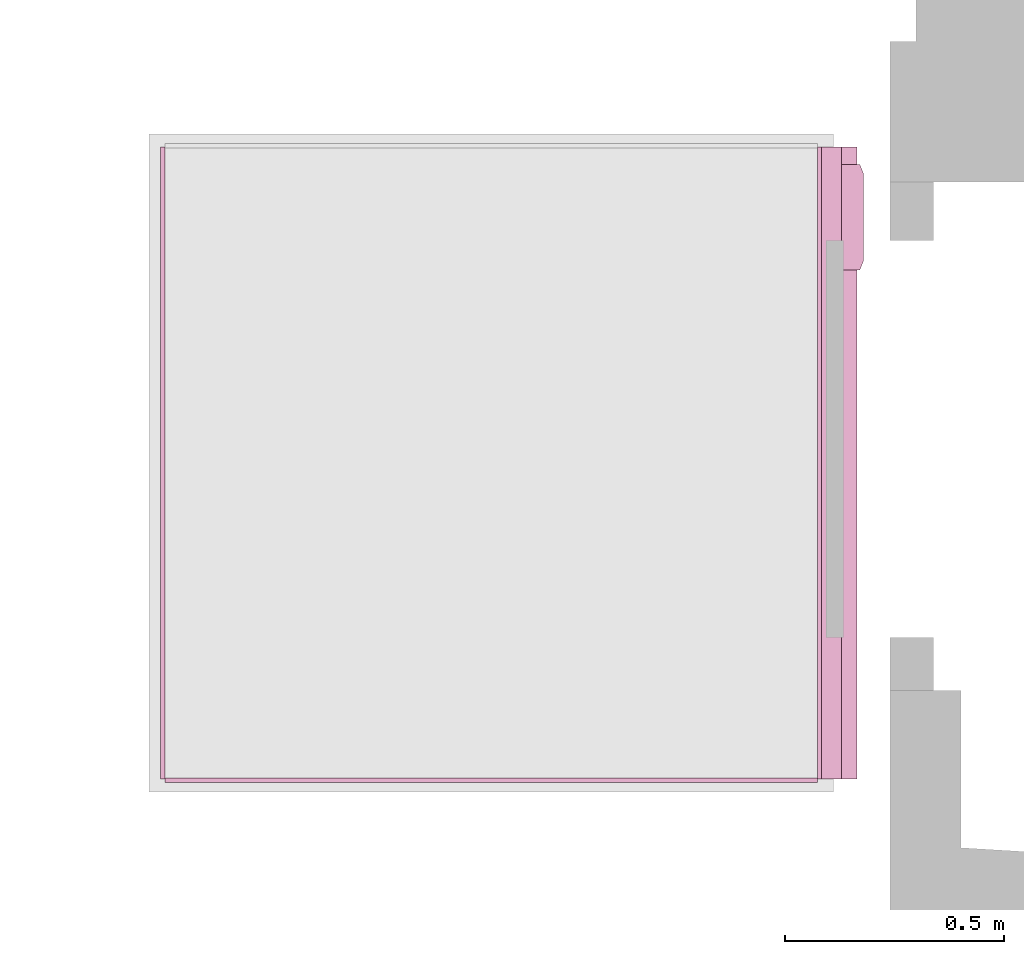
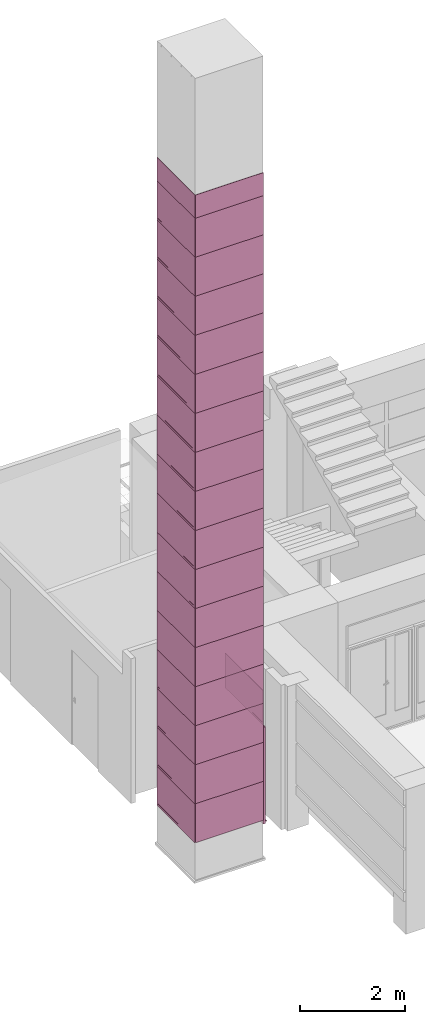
# One storey, part 47 of 49: 36 transport elements.
"""IFC2X3 building model written with IfcOpenShell, lengths in millimetres."""

from ifc_helpers import new_model, entity, si_unit, converted_unit, derived_unit, direction, frame, frame_2d, origin, origin_2d_with_axis, place, context, subcontext, project, spatial, polyline, rectangle, outline, extrude, source, transform, mapped, material, material_list, type_object, type_shapes, element, save


model = new_model("IFC2X3")

# Units and contexts
model_context = context("Model", 3, precision=0.01, world=origin(), true_north=direction((6.12303176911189e-17, 1.0)))
body_context = subcontext(model_context, "Body", "Model", "MODEL_VIEW")
ifc_project = project(units=[si_unit("LENGTHUNIT", "METRE", prefix="MILLI"), si_unit("AREAUNIT", "SQUARE_METRE"), si_unit("VOLUMEUNIT", "CUBIC_METRE"), converted_unit("PLANEANGLEUNIT", "DEGREE", entity("IfcRatioMeasure", 0.0174532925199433), si_unit("PLANEANGLEUNIT", "RADIAN"), dimensions=[0, 0, 0, 0, 0, 0, 0]), si_unit("MASSUNIT", "GRAM", prefix="KILO"), derived_unit("MASSDENSITYUNIT", [(si_unit("MASSUNIT", "GRAM", prefix="KILO"), 1), (si_unit("LENGTHUNIT", "METRE"), -3)]), si_unit("TIMEUNIT", "SECOND"), si_unit("FREQUENCYUNIT", "HERTZ"), si_unit("THERMODYNAMICTEMPERATUREUNIT", "DEGREE_CELSIUS"), derived_unit("THERMALTRANSMITTANCEUNIT", [(si_unit("MASSUNIT", "GRAM", prefix="KILO"), 1), (si_unit("THERMODYNAMICTEMPERATUREUNIT", "KELVIN"), -1), (si_unit("TIMEUNIT", "SECOND"), -3)]), derived_unit("VOLUMETRICFLOWRATEUNIT", [(si_unit("LENGTHUNIT", "METRE"), 3), (si_unit("TIMEUNIT", "SECOND"), -1)]), si_unit("ELECTRICCURRENTUNIT", "AMPERE"), si_unit("ELECTRICVOLTAGEUNIT", "VOLT"), si_unit("POWERUNIT", "WATT"), si_unit("FORCEUNIT", "NEWTON", prefix="KILO"), si_unit("ILLUMINANCEUNIT", "LUX"), si_unit("LUMINOUSFLUXUNIT", "LUMEN"), si_unit("LUMINOUSINTENSITYUNIT", "CANDELA"), derived_unit("USERDEFINED", [(si_unit("MASSUNIT", "GRAM", prefix="KILO"), -1), (si_unit("LENGTHUNIT", "METRE"), -2), (si_unit("TIMEUNIT", "SECOND"), 3), (si_unit("LUMINOUSFLUXUNIT", "LUMEN"), 1)]), derived_unit("LINEARVELOCITYUNIT", [(si_unit("LENGTHUNIT", "METRE"), 1), (si_unit("TIMEUNIT", "SECOND"), -1)]), si_unit("PRESSUREUNIT", "PASCAL"), derived_unit("USERDEFINED", [(si_unit("LENGTHUNIT", "METRE"), -2), (si_unit("MASSUNIT", "GRAM", prefix="KILO"), 1), (si_unit("TIMEUNIT", "SECOND"), -2)])], contexts=[model_context])

# Site, building, storey, space
site_placement = place(None, frame((-151.875543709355, 2715.0, 0.0)))
site = spatial("IfcSite", under=ifc_project, at=site_placement, Name="Surface", CompositionType="ELEMENT")
building_placement = place(site_placement, origin())
building = spatial("IfcBuilding", under=site, at=building_placement, CompositionType="ELEMENT")
storey_placement = place(building_placement, origin())
storey = spatial("IfcBuildingStorey", under=building, at=storey_placement, Name="1 korrus", CompositionType="ELEMENT", Elevation=3.0969999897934e-10)
space_placement = place(storey_placement, origin())
space = spatial("IfcSpace", under=storey, at=space_placement, Name="103", CompositionType="ELEMENT", InteriorOrExteriorSpace="INTERNAL")

# Transport elements
ifc_material_1 = material(Name="Kalea_glass")
ifc_material_2 = material(Name="Kalea_glass_black")
ifc_material_3 = material(Name="Kalea_RAL_9016")
ifc_material_list_1 = material_list([ifc_material_1, ifc_material_2, ifc_material_3])
ifc_material_list_2 = material_list([ifc_material_1, ifc_material_2, ifc_material_3])
transport_element_type_1 = type_object("IfcTransportElementType", Name="1100 x 1467 - 805", PredefinedType="NOTDEFINED", material=ifc_material_list_2)
shared_shape_1 = source(origin(), body_context, "Body", "SweptSolid", [
    extrude(rectangle(XDim=4.0, YDim=1020.0, at=origin_2d_with_axis()), frame((880.0, 15.0, 50.0), z_axis=(0.0, 0.0, 1.0), x_axis=(0.0, 1.0, 0.0)), (0.0, 0.0, 1.0), 705.0),
    extrude(rectangle(XDim=4.0, YDim=320.0, at=frame_2d((-2.1094237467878e-15, -1.4210854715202e-14), x_axis=(1.0, 0.0))), frame((210.0, 15.0, 50.0), z_axis=(0.0, 0.0, 1.0), x_axis=(0.0, 1.0, 0.0)), (0.0, 0.0, 1.0), 705.0),
    extrude(outline(polyline([(-720.0, -402.500000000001), (720.0, -402.500000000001), (720.0, 402.500000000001), (-720.0, 402.500000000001), (-720.0, -402.500000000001)]), holes=[polyline([(-670.0, -352.499999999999), (-670.0, 352.500000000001), (670.0, 352.500000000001), (670.0, -352.499999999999), (-670.0, -352.499999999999)])]), frame((720.0, 10.0, 402.500000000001), z_axis=(0.0, 1.0, 0.0), x_axis=(1.0, 0.0, 0.0)), (0.0, 0.0, 1.0), 9.99999999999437),
])
type_shapes(transport_element_type_1, [shared_shape_1])
transport_element_1_placement = place(space_placement, frame((-716.883383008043, 6010.0, 2240.0), z_axis=(0.0, 0.0, 1.0), x_axis=(0.0, -1.0, 0.0)))
element("IfcTransportElement", 1, at=transport_element_1_placement, inside=space, type_object=transport_element_type_1, material=ifc_material_list_1, Name="A-side_Glass Panel:1100 x 1467 - 805", ObjectType="1100 x 1467 - 805", CapacityByNumber=0.0, CapacityByWeight=0.0, OperationType="NOTDEFINED", context=body_context, shape_type="MappedRepresentation", body=[
    mapped(shared_shape_1, transform((0.0, 0.0, 0.0), scale=1.0)),
])
ifc_material_4 = material(Name="Kalea_RAL_9016_Traffic White")
ifc_material_list_3 = material_list([ifc_material_4, ifc_material_1])
ifc_material_list_4 = material_list([ifc_material_4, ifc_material_1])
transport_element_type_2 = type_object("IfcTransportElementType", Name="1100x1467 - Standard Height (904 mm)", PredefinedType="NOTDEFINED", material=ifc_material_list_4)
shared_shape_2 = source(origin(), body_context, "Body", "SweptSolid", [
    extrude(outline(polyline([(-452.0, -743.5), (452.0, -743.5), (452.0, 743.5), (-452.0, 743.5), (-452.0, -743.5)]), holes=[polyline([(-402.0, 693.499999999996), (402.0, 693.5), (402.0, -693.50000000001), (-402.0, -693.50000000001), (-402.0, 693.499999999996)])]), frame((743.5, -10.0, 452.0), z_axis=(0.0, 1.0, 0.0), x_axis=(0.0, 0.0, -1.0)), (0.0, 0.0, 1.0), 9.99999999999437),
    extrude(rectangle(XDim=9.99999999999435, YDim=1387.00000000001, at=origin_2d_with_axis()), frame((743.500000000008, -5.0, 50.0), z_axis=(0.0, 0.0, 1.0), x_axis=(0.0, 1.0, 0.0)), (0.0, 0.0, 1.0), 803.999999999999),
])
type_shapes(transport_element_type_2, [shared_shape_2])
transport_element_2_placement = place(storey_placement, frame((-2193.88338300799, 4572.02816123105, 8181.0)))
element("IfcTransportElement", 2, at=transport_element_2_placement, inside=storey, type_object=transport_element_type_2, material=ifc_material_list_3, Name="B-side_Glass Panel:1100x1467 - Standard Height (904 mm)", ObjectType="1100x1467 - Standard Height (904 mm)", CapacityByNumber=0.0, CapacityByWeight=0.0, OperationType="NOTDEFINED", context=body_context, shape_type="MappedRepresentation", body=[
    mapped(shared_shape_2, transform((0.0, 0.0, 0.0), scale=1.0)),
])
ifc_material_list_5 = material_list([ifc_material_4, ifc_material_1])
transport_element_3_placement = place(storey_placement, frame((-2193.88338300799, 4572.02816123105, 9085.0)))
element("IfcTransportElement", 3, at=transport_element_3_placement, inside=storey, type_object=transport_element_type_2, material=ifc_material_list_5, Name="B-side_Glass Panel:1100x1467 - Standard Height (904 mm)", ObjectType="1100x1467 - Standard Height (904 mm)", CapacityByNumber=0.0, CapacityByWeight=0.0, OperationType="NOTDEFINED", context=body_context, shape_type="MappedRepresentation", body=[
    mapped(shared_shape_2, transform((0.0, 0.0, 0.0), scale=1.0)),
])
ifc_material_list_6 = material_list([ifc_material_4, ifc_material_1])
transport_element_4_placement = place(storey_placement, frame((-2193.88338300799, 4572.02816123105, 9989.0)))
element("IfcTransportElement", 4, at=transport_element_4_placement, inside=storey, type_object=transport_element_type_2, material=ifc_material_list_6, Name="B-side_Glass Panel:1100x1467 - Standard Height (904 mm)", ObjectType="1100x1467 - Standard Height (904 mm)", CapacityByNumber=0.0, CapacityByWeight=0.0, OperationType="NOTDEFINED", context=body_context, shape_type="MappedRepresentation", body=[
    mapped(shared_shape_2, transform((0.0, 0.0, 0.0), scale=1.0)),
])
ifc_material_list_7 = material_list([ifc_material_4, ifc_material_1])
transport_element_5_placement = place(storey_placement, frame((-2193.88338300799, 4572.02816123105, 10893.0)))
element("IfcTransportElement", 5, at=transport_element_5_placement, inside=storey, type_object=transport_element_type_2, material=ifc_material_list_7, Name="B-side_Glass Panel:1100x1467 - Standard Height (904 mm)", ObjectType="1100x1467 - Standard Height (904 mm)", CapacityByNumber=0.0, CapacityByWeight=0.0, OperationType="NOTDEFINED", context=body_context, shape_type="MappedRepresentation", body=[
    mapped(shared_shape_2, transform((0.0, 0.0, 0.0), scale=1.0)),
])
ifc_material_list_8 = material_list([ifc_material_4, ifc_material_1])
transport_element_6_placement = place(storey_placement, frame((-2193.88338300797, 4572.02816123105, 11797.0)))
element("IfcTransportElement", 6, at=transport_element_6_placement, inside=storey, type_object=transport_element_type_2, material=ifc_material_list_8, Name="B-side_Glass Panel:1100x1467 - Standard Height (904 mm)", ObjectType="1100x1467 - Standard Height (904 mm)", CapacityByNumber=0.0, CapacityByWeight=0.0, OperationType="NOTDEFINED", context=body_context, shape_type="MappedRepresentation", body=[
    mapped(shared_shape_2, transform((0.0, 0.0, 0.0), scale=1.0)),
])
ifc_material_list_9 = material_list([ifc_material_4, ifc_material_1])
transport_element_7_placement = place(storey_placement, frame((-2193.88338300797, 4572.02816123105, 12701.0)))
element("IfcTransportElement", 7, at=transport_element_7_placement, inside=storey, type_object=transport_element_type_2, material=ifc_material_list_9, Name="B-side_Glass Panel:1100x1467 - Standard Height (904 mm)", ObjectType="1100x1467 - Standard Height (904 mm)", CapacityByNumber=0.0, CapacityByWeight=0.0, OperationType="NOTDEFINED", context=body_context, shape_type="MappedRepresentation", body=[
    mapped(shared_shape_2, transform((0.0, 0.0, 0.0), scale=1.0)),
])
ifc_material_list_10 = material_list([ifc_material_4, ifc_material_1])
transport_element_8_placement = place(storey_placement, frame((-2193.88338300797, 4572.02816123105, 13605.0)))
element("IfcTransportElement", 8, at=transport_element_8_placement, inside=storey, type_object=transport_element_type_2, material=ifc_material_list_10, Name="B-side_Glass Panel:1100x1467 - Standard Height (904 mm)", ObjectType="1100x1467 - Standard Height (904 mm)", CapacityByNumber=0.0, CapacityByWeight=0.0, OperationType="NOTDEFINED", context=body_context, shape_type="MappedRepresentation", body=[
    mapped(shared_shape_2, transform((0.0, 0.0, 0.0), scale=1.0)),
])
ifc_material_list_11 = material_list([ifc_material_4, ifc_material_1])
transport_element_9_placement = place(storey_placement, frame((-2193.88338300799, 4572.02816123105, 45.0)))
element("IfcTransportElement", 9, at=transport_element_9_placement, inside=storey, type_object=transport_element_type_2, material=ifc_material_list_11, Name="B-side_Glass Panel:1100x1467 - Standard Height (904 mm)", ObjectType="1100x1467 - Standard Height (904 mm)", CapacityByNumber=0.0, CapacityByWeight=0.0, OperationType="NOTDEFINED", context=body_context, shape_type="MappedRepresentation", body=[
    mapped(shared_shape_2, transform((0.0, 0.0, 0.0), scale=1.0)),
])
ifc_material_list_12 = material_list([ifc_material_4, ifc_material_1])
transport_element_10_placement = place(storey_placement, frame((-2193.88338300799, 4572.02816123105, 949.0)))
element("IfcTransportElement", 10, at=transport_element_10_placement, inside=storey, type_object=transport_element_type_2, material=ifc_material_list_12, Name="B-side_Glass Panel:1100x1467 - Standard Height (904 mm)", ObjectType="1100x1467 - Standard Height (904 mm)", CapacityByNumber=0.0, CapacityByWeight=0.0, OperationType="NOTDEFINED", context=body_context, shape_type="MappedRepresentation", body=[
    mapped(shared_shape_2, transform((0.0, 0.0, 0.0), scale=1.0)),
])
ifc_material_list_13 = material_list([ifc_material_4, ifc_material_1])
transport_element_11_placement = place(storey_placement, frame((-2193.88338300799, 4572.02816123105, 1853.0)))
element("IfcTransportElement", 11, at=transport_element_11_placement, inside=storey, type_object=transport_element_type_2, material=ifc_material_list_13, Name="B-side_Glass Panel:1100x1467 - Standard Height (904 mm)", ObjectType="1100x1467 - Standard Height (904 mm)", CapacityByNumber=0.0, CapacityByWeight=0.0, OperationType="NOTDEFINED", context=body_context, shape_type="MappedRepresentation", body=[
    mapped(shared_shape_2, transform((0.0, 0.0, 0.0), scale=1.0)),
])
ifc_material_list_14 = material_list([ifc_material_4, ifc_material_1])
transport_element_12_placement = place(storey_placement, frame((-2193.88338300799, 4572.02816123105, 2757.0)))
element("IfcTransportElement", 12, at=transport_element_12_placement, inside=storey, type_object=transport_element_type_2, material=ifc_material_list_14, Name="B-side_Glass Panel:1100x1467 - Standard Height (904 mm)", ObjectType="1100x1467 - Standard Height (904 mm)", CapacityByNumber=0.0, CapacityByWeight=0.0, OperationType="NOTDEFINED", context=body_context, shape_type="MappedRepresentation", body=[
    mapped(shared_shape_2, transform((0.0, 0.0, 0.0), scale=1.0)),
])
ifc_material_list_15 = material_list([ifc_material_4, ifc_material_1])
transport_element_13_placement = place(storey_placement, frame((-2193.88338300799, 4572.02816123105, 3661.0)))
element("IfcTransportElement", 13, at=transport_element_13_placement, inside=storey, type_object=transport_element_type_2, material=ifc_material_list_15, Name="B-side_Glass Panel:1100x1467 - Standard Height (904 mm)", ObjectType="1100x1467 - Standard Height (904 mm)", CapacityByNumber=0.0, CapacityByWeight=0.0, OperationType="NOTDEFINED", context=body_context, shape_type="MappedRepresentation", body=[
    mapped(shared_shape_2, transform((0.0, 0.0, 0.0), scale=1.0)),
])
ifc_material_list_16 = material_list([ifc_material_4, ifc_material_1])
transport_element_14_placement = place(storey_placement, frame((-2193.88338300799, 4572.02816123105, 4565.0)))
element("IfcTransportElement", 14, at=transport_element_14_placement, inside=storey, type_object=transport_element_type_2, material=ifc_material_list_16, Name="B-side_Glass Panel:1100x1467 - Standard Height (904 mm)", ObjectType="1100x1467 - Standard Height (904 mm)", CapacityByNumber=0.0, CapacityByWeight=0.0, OperationType="NOTDEFINED", context=body_context, shape_type="MappedRepresentation", body=[
    mapped(shared_shape_2, transform((0.0, 0.0, 0.0), scale=1.0)),
])
ifc_material_list_17 = material_list([ifc_material_4, ifc_material_1])
transport_element_15_placement = place(storey_placement, frame((-2193.88338300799, 4572.02816123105, 5469.0)))
element("IfcTransportElement", 15, at=transport_element_15_placement, inside=storey, type_object=transport_element_type_2, material=ifc_material_list_17, Name="B-side_Glass Panel:1100x1467 - Standard Height (904 mm)", ObjectType="1100x1467 - Standard Height (904 mm)", CapacityByNumber=0.0, CapacityByWeight=0.0, OperationType="NOTDEFINED", context=body_context, shape_type="MappedRepresentation", body=[
    mapped(shared_shape_2, transform((0.0, 0.0, 0.0), scale=1.0)),
])
ifc_material_list_18 = material_list([ifc_material_4, ifc_material_1])
transport_element_16_placement = place(storey_placement, frame((-2193.88338300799, 4572.02816123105, 6373.0)))
element("IfcTransportElement", 16, at=transport_element_16_placement, inside=storey, type_object=transport_element_type_2, material=ifc_material_list_18, Name="B-side_Glass Panel:1100x1467 - Standard Height (904 mm)", ObjectType="1100x1467 - Standard Height (904 mm)", CapacityByNumber=0.0, CapacityByWeight=0.0, OperationType="NOTDEFINED", context=body_context, shape_type="MappedRepresentation", body=[
    mapped(shared_shape_2, transform((0.0, 0.0, 0.0), scale=1.0)),
])
ifc_material_list_19 = material_list([ifc_material_4, ifc_material_1])
transport_element_17_placement = place(storey_placement, frame((-2193.88338300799, 4572.02816123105, 7277.0)))
element("IfcTransportElement", 17, at=transport_element_17_placement, inside=storey, type_object=transport_element_type_2, material=ifc_material_list_19, Name="B-side_Glass Panel:1100x1467 - Standard Height (904 mm)", ObjectType="1100x1467 - Standard Height (904 mm)", CapacityByNumber=0.0, CapacityByWeight=0.0, OperationType="NOTDEFINED", context=body_context, shape_type="MappedRepresentation", body=[
    mapped(shared_shape_2, transform((0.0, 0.0, 0.0), scale=1.0)),
])
ifc_material_list_20 = material_list([ifc_material_1, ifc_material_2, ifc_material_3])
ifc_material_list_21 = material_list([ifc_material_1, ifc_material_2, ifc_material_3])
transport_element_type_3 = type_object("IfcTransportElementType", Name="1100 x 1467 - Standard Height (904 mm)", PredefinedType="NOTDEFINED", material=ifc_material_list_21)
shared_shape_3 = source(origin(), body_context, "Body", "SweptSolid", [
    extrude(rectangle(XDim=4.0, YDim=1020.00000000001, at=origin_2d_with_axis()), frame((880.0, 15.0, 50.0), z_axis=(0.0, 0.0, 1.0), x_axis=(0.0, 1.0, 0.0)), (0.0, 0.0, 1.0), 804.000000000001),
    extrude(rectangle(XDim=4.0, YDim=320.0, at=frame_2d((-2.1094237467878e-15, -2.8421709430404e-14), x_axis=(1.0, 0.0))), frame((210.0, 15.0, 50.0), z_axis=(0.0, 0.0, 1.0), x_axis=(0.0, 1.0, 0.0)), (0.0, 0.0, 1.0), 804.000000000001),
    extrude(outline(polyline([(-720.0, -452.0), (720.0, -452.0), (720.0, 452.0), (-720.0, 452.0), (-720.0, -452.0)]), holes=[polyline([(-670.0, -402.0), (-670.0, 402.0), (670.0, 402.0), (670.0, -402.0), (-670.0, -402.0)])]), frame((720.0, 10.0, 452.0), z_axis=(0.0, 1.0, 0.0), x_axis=(1.0, 0.0, 0.0)), (0.0, 0.0, 1.0), 9.99999999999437),
])
type_shapes(transport_element_type_3, [shared_shape_3])
transport_element_18_placement = place(storey_placement, frame((-2213.88338300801, 6010.0, 8181.0), z_axis=(0.0, 0.0, 1.0), x_axis=(0.0, -1.0, 0.0)))
element("IfcTransportElement", 18, at=transport_element_18_placement, inside=storey, type_object=transport_element_type_3, material=ifc_material_list_20, Name="C-side_Glass Panel:1100 x 1467 - Standard Height (904 mm)", ObjectType="1100 x 1467 - Standard Height (904 mm)", CapacityByNumber=0.0, CapacityByWeight=0.0, OperationType="NOTDEFINED", context=body_context, shape_type="MappedRepresentation", body=[
    mapped(shared_shape_3, transform((0.0, 0.0, 0.0), scale=1.0)),
])
ifc_material_list_22 = material_list([ifc_material_1, ifc_material_2, ifc_material_3])
transport_element_19_placement = place(storey_placement, frame((-2213.88338300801, 6010.0, 9085.0), z_axis=(0.0, 0.0, 1.0), x_axis=(0.0, -1.0, 0.0)))
element("IfcTransportElement", 19, at=transport_element_19_placement, inside=storey, type_object=transport_element_type_3, material=ifc_material_list_22, Name="C-side_Glass Panel:1100 x 1467 - Standard Height (904 mm)", ObjectType="1100 x 1467 - Standard Height (904 mm)", CapacityByNumber=0.0, CapacityByWeight=0.0, OperationType="NOTDEFINED", context=body_context, shape_type="MappedRepresentation", body=[
    mapped(shared_shape_3, transform((0.0, 0.0, 0.0), scale=1.0)),
])
ifc_material_list_23 = material_list([ifc_material_1, ifc_material_2, ifc_material_3])
transport_element_20_placement = place(storey_placement, frame((-2213.88338300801, 6010.0, 9989.0), z_axis=(0.0, 0.0, 1.0), x_axis=(0.0, -1.0, 0.0)))
element("IfcTransportElement", 20, at=transport_element_20_placement, inside=storey, type_object=transport_element_type_3, material=ifc_material_list_23, Name="C-side_Glass Panel:1100 x 1467 - Standard Height (904 mm)", ObjectType="1100 x 1467 - Standard Height (904 mm)", CapacityByNumber=0.0, CapacityByWeight=0.0, OperationType="NOTDEFINED", context=body_context, shape_type="MappedRepresentation", body=[
    mapped(shared_shape_3, transform((0.0, 0.0, 0.0), scale=1.0)),
])
ifc_material_list_24 = material_list([ifc_material_1, ifc_material_2, ifc_material_3])
transport_element_21_placement = place(storey_placement, frame((-2213.88338300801, 6010.0, 10893.0), z_axis=(0.0, 0.0, 1.0), x_axis=(0.0, -1.0, 0.0)))
element("IfcTransportElement", 21, at=transport_element_21_placement, inside=storey, type_object=transport_element_type_3, material=ifc_material_list_24, Name="C-side_Glass Panel:1100 x 1467 - Standard Height (904 mm)", ObjectType="1100 x 1467 - Standard Height (904 mm)", CapacityByNumber=0.0, CapacityByWeight=0.0, OperationType="NOTDEFINED", context=body_context, shape_type="MappedRepresentation", body=[
    mapped(shared_shape_3, transform((0.0, 0.0, 0.0), scale=1.0)),
])
ifc_material_list_25 = material_list([ifc_material_1, ifc_material_2, ifc_material_3])
transport_element_22_placement = place(storey_placement, frame((-2213.88338300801, 6010.0, 11797.0), z_axis=(0.0, 0.0, 1.0), x_axis=(0.0, -1.0, 0.0)))
element("IfcTransportElement", 22, at=transport_element_22_placement, inside=storey, type_object=transport_element_type_3, material=ifc_material_list_25, Name="C-side_Glass Panel:1100 x 1467 - Standard Height (904 mm)", ObjectType="1100 x 1467 - Standard Height (904 mm)", CapacityByNumber=0.0, CapacityByWeight=0.0, OperationType="NOTDEFINED", context=body_context, shape_type="MappedRepresentation", body=[
    mapped(shared_shape_3, transform((0.0, 0.0, 0.0), scale=1.0)),
])
ifc_material_list_26 = material_list([ifc_material_1, ifc_material_2, ifc_material_3])
transport_element_23_placement = place(storey_placement, frame((-2213.88338300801, 6010.0, 12701.0), z_axis=(0.0, 0.0, 1.0), x_axis=(0.0, -1.0, 0.0)))
element("IfcTransportElement", 23, at=transport_element_23_placement, inside=storey, type_object=transport_element_type_3, material=ifc_material_list_26, Name="C-side_Glass Panel:1100 x 1467 - Standard Height (904 mm)", ObjectType="1100 x 1467 - Standard Height (904 mm)", CapacityByNumber=0.0, CapacityByWeight=0.0, OperationType="NOTDEFINED", context=body_context, shape_type="MappedRepresentation", body=[
    mapped(shared_shape_3, transform((0.0, 0.0, 0.0), scale=1.0)),
])
ifc_material_list_27 = material_list([ifc_material_1, ifc_material_2, ifc_material_3])
transport_element_24_placement = place(storey_placement, frame((-2213.88338300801, 6010.0, 13605.0), z_axis=(0.0, 0.0, 1.0), x_axis=(0.0, -1.0, 0.0)))
element("IfcTransportElement", 24, at=transport_element_24_placement, inside=storey, type_object=transport_element_type_3, material=ifc_material_list_27, Name="C-side_Glass Panel:1100 x 1467 - Standard Height (904 mm)", ObjectType="1100 x 1467 - Standard Height (904 mm)", CapacityByNumber=0.0, CapacityByWeight=0.0, OperationType="NOTDEFINED", context=body_context, shape_type="MappedRepresentation", body=[
    mapped(shared_shape_3, transform((0.0, 0.0, 0.0), scale=1.0)),
])
ifc_material_list_28 = material_list([ifc_material_1, ifc_material_2, ifc_material_3])
transport_element_25_placement = place(storey_placement, frame((-2213.88338300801, 6010.0, 45.0), z_axis=(0.0, 0.0, 1.0), x_axis=(0.0, -1.0, 0.0)))
element("IfcTransportElement", 25, at=transport_element_25_placement, inside=storey, type_object=transport_element_type_3, material=ifc_material_list_28, Name="C-side_Glass Panel:1100 x 1467 - Standard Height (904 mm)", ObjectType="1100 x 1467 - Standard Height (904 mm)", CapacityByNumber=0.0, CapacityByWeight=0.0, OperationType="NOTDEFINED", context=body_context, shape_type="MappedRepresentation", body=[
    mapped(shared_shape_3, transform((0.0, 0.0, 0.0), scale=1.0)),
])
ifc_material_list_29 = material_list([ifc_material_1, ifc_material_2, ifc_material_3])
transport_element_26_placement = place(storey_placement, frame((-2213.88338300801, 6010.0, 949.0), z_axis=(0.0, 0.0, 1.0), x_axis=(0.0, -1.0, 0.0)))
element("IfcTransportElement", 26, at=transport_element_26_placement, inside=storey, type_object=transport_element_type_3, material=ifc_material_list_29, Name="C-side_Glass Panel:1100 x 1467 - Standard Height (904 mm)", ObjectType="1100 x 1467 - Standard Height (904 mm)", CapacityByNumber=0.0, CapacityByWeight=0.0, OperationType="NOTDEFINED", context=body_context, shape_type="MappedRepresentation", body=[
    mapped(shared_shape_3, transform((0.0, 0.0, 0.0), scale=1.0)),
])
ifc_material_list_30 = material_list([ifc_material_1, ifc_material_2, ifc_material_3])
transport_element_27_placement = place(storey_placement, frame((-2213.88338300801, 6010.0, 1853.0), z_axis=(0.0, 0.0, 1.0), x_axis=(0.0, -1.0, 0.0)))
element("IfcTransportElement", 27, at=transport_element_27_placement, inside=storey, type_object=transport_element_type_3, material=ifc_material_list_30, Name="C-side_Glass Panel:1100 x 1467 - Standard Height (904 mm)", ObjectType="1100 x 1467 - Standard Height (904 mm)", CapacityByNumber=0.0, CapacityByWeight=0.0, OperationType="NOTDEFINED", context=body_context, shape_type="MappedRepresentation", body=[
    mapped(shared_shape_3, transform((0.0, 0.0, 0.0), scale=1.0)),
])
ifc_material_list_31 = material_list([ifc_material_1, ifc_material_2, ifc_material_3])
transport_element_28_placement = place(storey_placement, frame((-2213.88338300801, 6010.0, 2757.0), z_axis=(0.0, 0.0, 1.0), x_axis=(0.0, -1.0, 0.0)))
element("IfcTransportElement", 28, at=transport_element_28_placement, inside=storey, type_object=transport_element_type_3, material=ifc_material_list_31, Name="C-side_Glass Panel:1100 x 1467 - Standard Height (904 mm)", ObjectType="1100 x 1467 - Standard Height (904 mm)", CapacityByNumber=0.0, CapacityByWeight=0.0, OperationType="NOTDEFINED", context=body_context, shape_type="MappedRepresentation", body=[
    mapped(shared_shape_3, transform((0.0, 0.0, 0.0), scale=1.0)),
])
ifc_material_list_32 = material_list([ifc_material_1, ifc_material_2, ifc_material_3])
transport_element_29_placement = place(storey_placement, frame((-2213.88338300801, 6010.0, 3661.0), z_axis=(0.0, 0.0, 1.0), x_axis=(0.0, -1.0, 0.0)))
element("IfcTransportElement", 29, at=transport_element_29_placement, inside=storey, type_object=transport_element_type_3, material=ifc_material_list_32, Name="C-side_Glass Panel:1100 x 1467 - Standard Height (904 mm)", ObjectType="1100 x 1467 - Standard Height (904 mm)", CapacityByNumber=0.0, CapacityByWeight=0.0, OperationType="NOTDEFINED", context=body_context, shape_type="MappedRepresentation", body=[
    mapped(shared_shape_3, transform((0.0, 0.0, 0.0), scale=1.0)),
])
ifc_material_list_33 = material_list([ifc_material_1, ifc_material_2, ifc_material_3])
transport_element_30_placement = place(storey_placement, frame((-2213.88338300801, 6010.0, 4565.0), z_axis=(0.0, 0.0, 1.0), x_axis=(0.0, -1.0, 0.0)))
element("IfcTransportElement", 30, at=transport_element_30_placement, inside=storey, type_object=transport_element_type_3, material=ifc_material_list_33, Name="C-side_Glass Panel:1100 x 1467 - Standard Height (904 mm)", ObjectType="1100 x 1467 - Standard Height (904 mm)", CapacityByNumber=0.0, CapacityByWeight=0.0, OperationType="NOTDEFINED", context=body_context, shape_type="MappedRepresentation", body=[
    mapped(shared_shape_3, transform((0.0, 0.0, 0.0), scale=1.0)),
])
ifc_material_list_34 = material_list([ifc_material_1, ifc_material_2, ifc_material_3])
transport_element_31_placement = place(storey_placement, frame((-2213.88338300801, 6010.0, 5469.0), z_axis=(0.0, 0.0, 1.0), x_axis=(0.0, -1.0, 0.0)))
element("IfcTransportElement", 31, at=transport_element_31_placement, inside=storey, type_object=transport_element_type_3, material=ifc_material_list_34, Name="C-side_Glass Panel:1100 x 1467 - Standard Height (904 mm)", ObjectType="1100 x 1467 - Standard Height (904 mm)", CapacityByNumber=0.0, CapacityByWeight=0.0, OperationType="NOTDEFINED", context=body_context, shape_type="MappedRepresentation", body=[
    mapped(shared_shape_3, transform((0.0, 0.0, 0.0), scale=1.0)),
])
ifc_material_list_35 = material_list([ifc_material_1, ifc_material_2, ifc_material_3])
transport_element_32_placement = place(storey_placement, frame((-2213.88338300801, 6010.0, 6373.0), z_axis=(0.0, 0.0, 1.0), x_axis=(0.0, -1.0, 0.0)))
element("IfcTransportElement", 32, at=transport_element_32_placement, inside=storey, type_object=transport_element_type_3, material=ifc_material_list_35, Name="C-side_Glass Panel:1100 x 1467 - Standard Height (904 mm)", ObjectType="1100 x 1467 - Standard Height (904 mm)", CapacityByNumber=0.0, CapacityByWeight=0.0, OperationType="NOTDEFINED", context=body_context, shape_type="MappedRepresentation", body=[
    mapped(shared_shape_3, transform((0.0, 0.0, 0.0), scale=1.0)),
])
ifc_material_list_36 = material_list([ifc_material_1, ifc_material_2, ifc_material_3])
transport_element_33_placement = place(storey_placement, frame((-2213.88338300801, 6010.0, 7277.0), z_axis=(0.0, 0.0, 1.0), x_axis=(0.0, -1.0, 0.0)))
element("IfcTransportElement", 33, at=transport_element_33_placement, inside=storey, type_object=transport_element_type_3, material=ifc_material_list_36, Name="C-side_Glass Panel:1100 x 1467 - Standard Height (904 mm)", ObjectType="1100 x 1467 - Standard Height (904 mm)", CapacityByNumber=0.0, CapacityByWeight=0.0, OperationType="NOTDEFINED", context=body_context, shape_type="MappedRepresentation", body=[
    mapped(shared_shape_3, transform((0.0, 0.0, 0.0), scale=1.0)),
])
ifc_material_list_37 = material_list([ifc_material_1, ifc_material_2, ifc_material_3])
ifc_material_list_38 = material_list([ifc_material_1, ifc_material_2, ifc_material_3])
transport_element_type_4 = type_object("IfcTransportElementType", Name="1100 x 1467 - 536", PredefinedType="NOTDEFINED", material=ifc_material_list_38)
shared_shape_4 = source(origin(), body_context, "Body", "SweptSolid", [
    extrude(rectangle(XDim=4.0, YDim=1020.00000000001, at=origin_2d_with_axis()), frame((880.0, 15.0, 50.0), z_axis=(0.0, 0.0, 1.0), x_axis=(0.0, 1.0, 0.0)), (0.0, 0.0, 1.0), 436.0),
    extrude(rectangle(XDim=4.0, YDim=320.0, at=frame_2d((-2.1094237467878e-15, -1.4210854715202e-14), x_axis=(1.0, 0.0))), frame((210.0, 15.0, 50.0), z_axis=(0.0, 0.0, 1.0), x_axis=(0.0, 1.0, 0.0)), (0.0, 0.0, 1.0), 436.0),
    extrude(outline(polyline([(-720.0, -268.0), (720.0, -268.0), (720.0, 268.0), (-720.0, 268.0), (-720.0, -268.0)]), holes=[polyline([(-670.0, -218.0), (-670.0, 218.0), (670.0, 218.0), (670.0, -218.0), (-670.0, -218.0)])]), frame((720.0, 10.0, 268.0), z_axis=(0.0, 1.0, 0.0), x_axis=(1.0, 0.0, 0.0)), (0.0, 0.0, 1.0), 9.99999999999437),
])
type_shapes(transport_element_type_4, [shared_shape_4])
transport_element_34_placement = place(storey_placement, frame((-2213.88338300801, 6010.0, 14509.0), z_axis=(0.0, 0.0, 1.0), x_axis=(0.0, -1.0, 0.0)))
element("IfcTransportElement", 34, at=transport_element_34_placement, inside=storey, type_object=transport_element_type_4, material=ifc_material_list_37, Name="C-side_Glass Panel:1100 x 1467 - 536", ObjectType="1100 x 1467 - 536", CapacityByNumber=0.0, CapacityByWeight=0.0, OperationType="NOTDEFINED", context=body_context, shape_type="MappedRepresentation", body=[
    mapped(shared_shape_4, transform((0.0, 0.0, 0.0), scale=1.0)),
])
ifc_material_list_39 = material_list([ifc_material_4, ifc_material_1])
ifc_material_list_40 = material_list([ifc_material_4, ifc_material_1])
transport_element_type_5 = type_object("IfcTransportElementType", Name="1100x1467 - 536", PredefinedType="NOTDEFINED", material=ifc_material_list_40)
shared_shape_5 = source(origin(), body_context, "Body", "SweptSolid", [
    extrude(outline(polyline([(-268.0, -743.5), (268.0, -743.5), (268.0, 743.5), (-268.0, 743.5), (-268.0, -743.5)]), holes=[polyline([(-218.0, 693.499999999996), (218.0, 693.5), (218.0, -693.50000000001), (-218.0, -693.50000000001), (-218.0, 693.499999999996)])]), frame((743.5, -10.0, 268.0), z_axis=(0.0, 1.0, 0.0), x_axis=(0.0, 0.0, -1.0)), (0.0, 0.0, 1.0), 9.99999999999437),
    extrude(rectangle(XDim=9.99999999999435, YDim=1387.00000000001, at=origin_2d_with_axis()), frame((743.500000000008, -5.0, 50.0), z_axis=(0.0, 0.0, 1.0), x_axis=(0.0, 1.0, 0.0)), (0.0, 0.0, 1.0), 436.0),
])
type_shapes(transport_element_type_5, [shared_shape_5])
transport_element_35_placement = place(storey_placement, frame((-2193.88338300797, 4572.02816123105, 14509.0)))
element("IfcTransportElement", 35, at=transport_element_35_placement, inside=storey, type_object=transport_element_type_5, material=ifc_material_list_39, Name="B-side_Glass Panel:1100x1467 - 536", ObjectType="1100x1467 - 536", CapacityByNumber=0.0, CapacityByWeight=0.0, OperationType="NOTDEFINED", context=body_context, shape_type="MappedRepresentation", body=[
    mapped(shared_shape_5, transform((0.0, 0.0, 0.0), scale=1.0)),
])
transport_element_type_6 = type_object("IfcTransportElementType", Name="1100 x 1467 - Left hinged", PredefinedType="NOTDEFINED", material=ifc_material_3)
shared_shape_6 = source(origin(), body_context, "Body", "SweptSolid", [
    extrude(outline(polyline([(-31.6666666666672, -31.6666666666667), (18.3333333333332, -31.6666666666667), (18.3333333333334, 58.3333333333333), (13.3333333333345, 58.3333333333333), (13.3333333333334, -26.6666666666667), (-31.6666666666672, -26.6666666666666), (-31.6666666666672, -31.6666666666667)])), frame((0.0, -31.6666666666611, 31.6666666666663), z_axis=(1.0, 0.0, 0.0), x_axis=(0.0, 0.0, 1.0)), (0.0, 0.0, 1.0), 1440.0),
    extrude(outline(polyline([(-107.208108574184, -55.089616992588), (-85.6674493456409, -55.089616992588), (100.027888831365, 19.1885182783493), (115.626297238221, 34.0441453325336), (100.027888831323, 73.0401663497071), (-122.806516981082, -16.0935959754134), (-107.208108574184, -55.089616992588)])), frame((1280.0, -85.666666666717, 50.0), z_axis=(0.0, 0.0, 1.0), x_axis=(0.928476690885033, -0.37139067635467, 0.0)), (0.0, 0.0, 1.0), 2000.00000000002),
    extrude(outline(polyline([(-720.0, -1120.0), (720.0, -1120.0), (720.0, 1120.0), (-720.0, 1120.0), (-720.0, -1120.0)]), holes=[polyline([(-500.0, -930.0), (-500.0, 1070.0), (400.0, 1070.0), (400.0, -930.0), (-500.0, -930.0)])]), frame((720.0, -55.0, 1120.0), z_axis=(0.0, 1.0, 0.0), x_axis=(1.0, 0.0, 0.0)), (0.0, 0.0, 1.0), 55.0),
])
type_shapes(transport_element_type_6, [shared_shape_6])
transport_element_36_placement = place(storey_placement, frame((-706.883383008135, 4570.0, -50.0), z_axis=(0.0, 0.0, 1.0), x_axis=(0.0, 1.0, 0.0)))
element("IfcTransportElement", 36, at=transport_element_36_placement, inside=storey, type_object=transport_element_type_6, material=ifc_material_3, Name="A-side_Door_EI60G:1100 x 1467 - Left hinged", ObjectType="1100 x 1467 - Left hinged", CapacityByNumber=0.0, CapacityByWeight=0.0, OperationType="NOTDEFINED", context=body_context, shape_type="MappedRepresentation", body=[
    mapped(shared_shape_6, transform((0.0, 0.0, 0.0), scale=1.0)),
])

save(model, "model.ifc")
